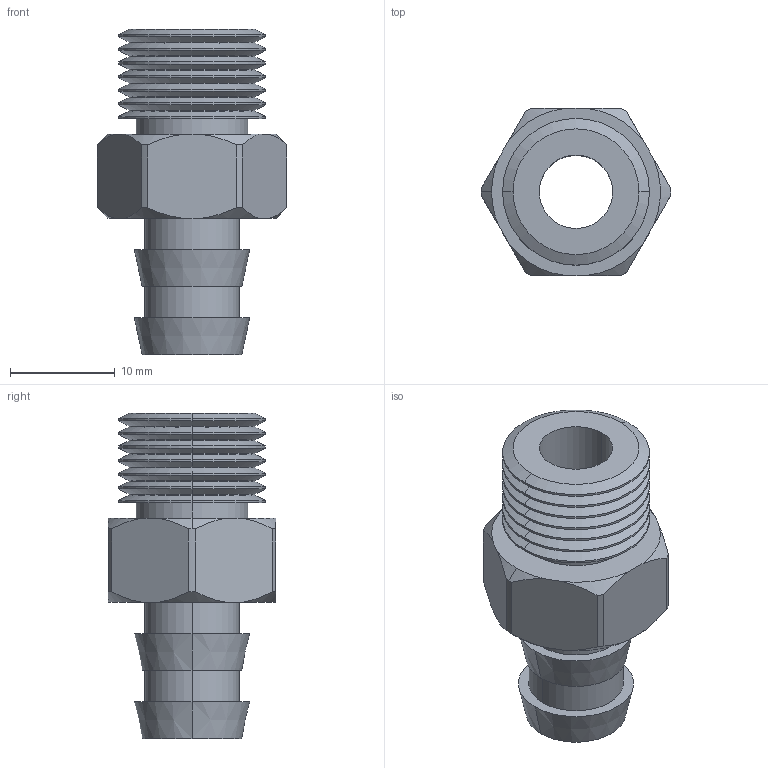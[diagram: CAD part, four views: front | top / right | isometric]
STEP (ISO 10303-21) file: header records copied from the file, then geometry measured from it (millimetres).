
FILE_DESCRIPTION (( 'STEP AP214' ), '1' );
FILE_NAME ('VM-04-G1-4.STEP', '2023-03-06T01:50:44', ( 'Windows User' ), ( 'P R C' ), 'SwSTEP 2.0', 'SolidWorks 2019', '' );
FILE_SCHEMA (( 'AUTOMOTIVE_DESIGN' ));
Length unit declared in the file: millimetre
Products named in the file (1): VM-04-G1-4
Bounding box: 18.1 x 16 x 31 mm (x, y, z)
Volume: 2805.5 mm3; surface area: 2756.5 mm2
Topology: 1 solids, 1 shells, 99 faces, 222 edges, 131 vertices
Faces by surface type: cone 44, cylinder 41, plane 14
Entity records: 2877 total; most frequent: CARTESIAN_POINT 605, DIRECTION 505, ORIENTED_EDGE 444, EDGE_CURVE 222, AXIS2_PLACEMENT_3D 207, VERTEX_POINT 131, CIRCLE 107, EDGE_LOOP 107
